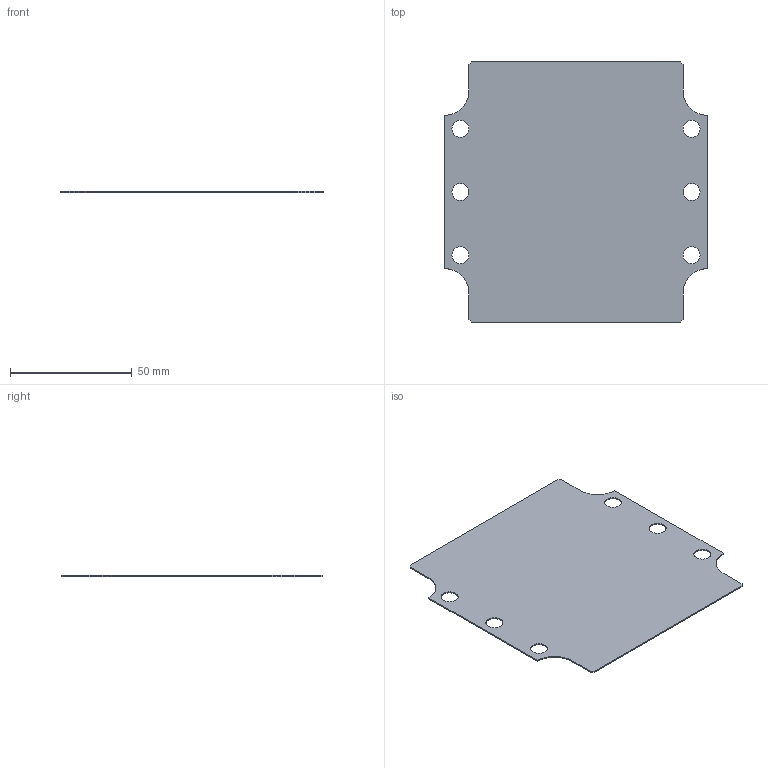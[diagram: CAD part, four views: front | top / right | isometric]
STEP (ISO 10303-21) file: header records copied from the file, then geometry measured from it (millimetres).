
FILE_DESCRIPTION((''),'2;1');
FILE_NAME('c:\temp\121PL.stp','2006-07-18T13:51:02',('kbond'),(''),'Autodesk Inventor 11','Autodesk Inventor 11','');
FILE_SCHEMA(('AUTOMOTIVE_DESIGN { 1 0 10303 214 1 1 1 1 }'));
Length unit declared in the file: millimetre
Products named in the file (1): 121PL
Bounding box: 108 x 107 x 0.5 mm (x, y, z)
Volume: 5264.5 mm3; surface area: 21329.1 mm2
Topology: 1 solids, 1 shells, 24 faces, 72 edges, 50 vertices
Faces by surface type: plane 14, bspline 6, cylinder 4
Entity records: 865 total; most frequent: CARTESIAN_POINT 231, ORIENTED_EDGE 120, DIRECTION 118, EDGE_CURVE 60, VERTEX_POINT 44, EDGE_LOOP 42, VECTOR 40, LINE 40
